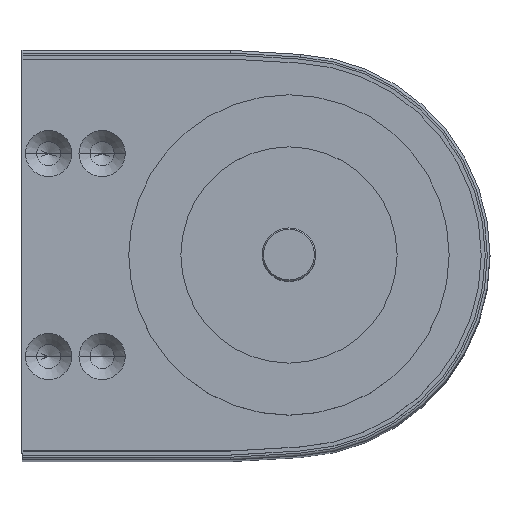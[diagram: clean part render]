
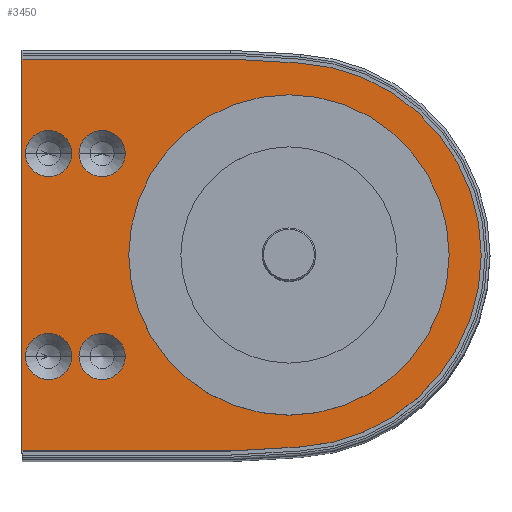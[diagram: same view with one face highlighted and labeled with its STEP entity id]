
A CAD part, top view. The second image highlights one B-rep face of the part: STEP entity #3450.
In plain terms, the highlighted planar face has unit normal (0, 0, 1).
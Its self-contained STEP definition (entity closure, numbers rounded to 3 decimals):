
#28 = EDGE_CURVE ( 'NONE', #1777, #62, #1908, .T. ) ;
#62 = VERTEX_POINT ( 'NONE', #893 ) ;
#119 = CIRCLE ( 'NONE', #2849, 60. ) ;
#135 = AXIS2_PLACEMENT_3D ( 'NONE', #1813, #1173, #3102 ) ;
#143 = CIRCLE ( 'NONE', #3673, 8.65 ) ;
#167 = CARTESIAN_POINT ( 'NONE',  ( -70., -38., 209. ) ) ;
#211 = VERTEX_POINT ( 'NONE', #757 ) ;
#223 = CARTESIAN_POINT ( 'NONE',  ( -90., 38., 209. ) ) ;
#234 = EDGE_CURVE ( 'NONE', #3190, #1376, #2387, .T. ) ;
#238 = VECTOR ( 'NONE', #1838, 1000. ) ;
#244 = CARTESIAN_POINT ( 'NONE',  ( -90., -38., 209. ) ) ;
#269 = CIRCLE ( 'NONE', #2852, 8.65 ) ;
#330 = DIRECTION ( 'NONE',  ( 1., 0., 0. ) ) ;
#363 = EDGE_CURVE ( 'NONE', #3931, #3793, #119, .T. ) ;
#375 = CARTESIAN_POINT ( 'NONE',  ( -21.968, -73.4, 209. ) ) ;
#376 = CARTESIAN_POINT ( 'NONE',  ( 0., 0., 209. ) ) ;
#405 = EDGE_LOOP ( 'NONE', ( #1068, #2258 ) ) ;
#421 = DIRECTION ( 'NONE',  ( 0., 0., 1. ) ) ;
#426 = VERTEX_POINT ( 'NONE', #1114 ) ;
#439 = ORIENTED_EDGE ( 'NONE', *, *, #1679, .F. ) ;
#486 = ORIENTED_EDGE ( 'NONE', *, *, #879, .T. ) ;
#557 = DIRECTION ( 'NONE',  ( 0., 0., 1. ) ) ;
#587 = DIRECTION ( 'NONE',  ( 0., 0., 1. ) ) ;
#687 = PLANE ( 'NONE',  #3656 ) ;
#694 = CARTESIAN_POINT ( 'NONE',  ( -78.65, -38., 209. ) ) ;
#714 = DIRECTION ( 'NONE',  ( 1., 0., 0. ) ) ;
#732 = EDGE_CURVE ( 'NONE', #211, #1518, #269, .T. ) ;
#757 = CARTESIAN_POINT ( 'NONE',  ( -81.35, 38., 209. ) ) ;
#773 = CARTESIAN_POINT ( 'NONE',  ( -78.65, 38., 209. ) ) ;
#783 = FACE_BOUND ( 'NONE', #1517, .T. ) ;
#789 = DIRECTION ( 'NONE',  ( 0., 0., 1. ) ) ;
#862 = DIRECTION ( 'NONE',  ( 1., 0., 0. ) ) ;
#879 = EDGE_CURVE ( 'NONE', #1376, #2011, #3802, .T. ) ;
#884 = LINE ( 'NONE', #3027, #3811 ) ;
#893 = CARTESIAN_POINT ( 'NONE',  ( -21.968, 73.4, 209. ) ) ;
#894 = DIRECTION ( 'NONE',  ( 1., 0., 0. ) ) ;
#1063 = DIRECTION ( 'NONE',  ( 1., 0., 0. ) ) ;
#1068 = ORIENTED_EDGE ( 'NONE', *, *, #1844, .F. ) ;
#1071 = CARTESIAN_POINT ( 'NONE',  ( -98.65, -38., 209. ) ) ;
#1114 = CARTESIAN_POINT ( 'NONE',  ( -81.35, -38., 209. ) ) ;
#1153 = ORIENTED_EDGE ( 'NONE', *, *, #3825, .F. ) ;
#1168 = CARTESIAN_POINT ( 'NONE',  ( -21.968, 73.4, 209. ) ) ;
#1173 = DIRECTION ( 'NONE',  ( 0., 0., 1. ) ) ;
#1207 = DIRECTION ( 'NONE',  ( 1., 0., 0. ) ) ;
#1242 = FACE_BOUND ( 'NONE', #2231, .T. ) ;
#1244 = DIRECTION ( 'NONE',  ( 1., 0., 0. ) ) ;
#1256 = VERTEX_POINT ( 'NONE', #2924 ) ;
#1361 = EDGE_CURVE ( 'NONE', #3882, #1512, #3934, .T. ) ;
#1375 = CARTESIAN_POINT ( 'NONE',  ( 0., 0., 209. ) ) ;
#1376 = VERTEX_POINT ( 'NONE', #2593 ) ;
#1398 = ORIENTED_EDGE ( 'NONE', *, *, #1782, .F. ) ;
#1512 = VERTEX_POINT ( 'NONE', #773 ) ;
#1517 = EDGE_LOOP ( 'NONE', ( #1863, #1153 ) ) ;
#1518 = VERTEX_POINT ( 'NONE', #3682 ) ;
#1570 = ORIENTED_EDGE ( 'NONE', *, *, #28, .F. ) ;
#1624 = ORIENTED_EDGE ( 'NONE', *, *, #234, .T. ) ;
#1625 = VERTEX_POINT ( 'NONE', #1071 ) ;
#1679 = EDGE_CURVE ( 'NONE', #3793, #3931, #3766, .T. ) ;
#1710 = CIRCLE ( 'NONE', #2512, 8.65 ) ;
#1737 = DIRECTION ( 'NONE',  ( 0., 0., 1. ) ) ;
#1777 = VERTEX_POINT ( 'NONE', #4114 ) ;
#1782 = EDGE_CURVE ( 'NONE', #1518, #211, #1710, .T. ) ;
#1813 = CARTESIAN_POINT ( 'NONE',  ( 0., 0., 209. ) ) ;
#1821 = EDGE_CURVE ( 'NONE', #1512, #3882, #2661, .T. ) ;
#1838 = DIRECTION ( 'NONE',  ( 0.998, -0.058, 0. ) ) ;
#1844 = EDGE_CURVE ( 'NONE', #426, #1625, #143, .T. ) ;
#1853 = ORIENTED_EDGE ( 'NONE', *, *, #2889, .T. ) ;
#1863 = ORIENTED_EDGE ( 'NONE', *, *, #2551, .F. ) ;
#1865 = CARTESIAN_POINT ( 'NONE',  ( -100., -73.4, 209. ) ) ;
#1887 = CARTESIAN_POINT ( 'NONE',  ( -70., 38., 209. ) ) ;
#1895 = DIRECTION ( 'NONE',  ( 1., 0., 0. ) ) ;
#1897 = AXIS2_PLACEMENT_3D ( 'NONE', #1887, #557, #862 ) ;
#1908 = LINE ( 'NONE', #3191, #2677 ) ;
#1929 = CARTESIAN_POINT ( 'NONE',  ( -70., 38., 209. ) ) ;
#1976 = FACE_BOUND ( 'NONE', #2558, .T. ) ;
#1989 = VERTEX_POINT ( 'NONE', #3464 ) ;
#2011 = VERTEX_POINT ( 'NONE', #2519 ) ;
#2022 = AXIS2_PLACEMENT_3D ( 'NONE', #244, #4162, #894 ) ;
#2056 = ORIENTED_EDGE ( 'NONE', *, *, #3474, .T. ) ;
#2146 = CARTESIAN_POINT ( 'NONE',  ( 0., 0., 209. ) ) ;
#2161 = DIRECTION ( 'NONE',  ( 1., 0., 0. ) ) ;
#2187 = CIRCLE ( 'NONE', #2022, 8.65 ) ;
#2231 = EDGE_LOOP ( 'NONE', ( #3208, #439 ) ) ;
#2258 = ORIENTED_EDGE ( 'NONE', *, *, #3734, .F. ) ;
#2289 = DIRECTION ( 'NONE',  ( 1., 0., 0. ) ) ;
#2313 = AXIS2_PLACEMENT_3D ( 'NONE', #1929, #3253, #2289 ) ;
#2387 = LINE ( 'NONE', #2996, #2692 ) ;
#2445 = FACE_OUTER_BOUND ( 'NONE', #3545, .T. ) ;
#2469 = DIRECTION ( 'NONE',  ( 1., 0., 0. ) ) ;
#2512 = AXIS2_PLACEMENT_3D ( 'NONE', #223, #3837, #2816 ) ;
#2519 = CARTESIAN_POINT ( 'NONE',  ( 4.182, 71.878, 209. ) ) ;
#2547 = CARTESIAN_POINT ( 'NONE',  ( -70., -38., 209. ) ) ;
#2551 = EDGE_CURVE ( 'NONE', #1989, #3287, #3029, .T. ) ;
#2558 = EDGE_LOOP ( 'NONE', ( #3594, #3467 ) ) ;
#2560 = EDGE_LOOP ( 'NONE', ( #2951, #1398 ) ) ;
#2593 = CARTESIAN_POINT ( 'NONE',  ( 4.182, -71.878, 209. ) ) ;
#2661 = CIRCLE ( 'NONE', #1897, 8.65 ) ;
#2674 = AXIS2_PLACEMENT_3D ( 'NONE', #2547, #2808, #1207 ) ;
#2677 = VECTOR ( 'NONE', #4159, 1000. ) ;
#2692 = VECTOR ( 'NONE', #2693, 1000. ) ;
#2693 = DIRECTION ( 'NONE',  ( 0.998, 0.058, 0. ) ) ;
#2784 = CARTESIAN_POINT ( 'NONE',  ( -90., 38., 209. ) ) ;
#2808 = DIRECTION ( 'NONE',  ( 0., 0., 1. ) ) ;
#2816 = DIRECTION ( 'NONE',  ( 1., 0., 0. ) ) ;
#2820 = CARTESIAN_POINT ( 'NONE',  ( 60., 0., 209. ) ) ;
#2849 = AXIS2_PLACEMENT_3D ( 'NONE', #2146, #789, #2469 ) ;
#2852 = AXIS2_PLACEMENT_3D ( 'NONE', #2784, #3110, #330 ) ;
#2856 = LINE ( 'NONE', #1168, #238 ) ;
#2889 = EDGE_CURVE ( 'NONE', #1256, #3190, #3812, .T. ) ;
#2924 = CARTESIAN_POINT ( 'NONE',  ( -100., -73.4, 209. ) ) ;
#2951 = ORIENTED_EDGE ( 'NONE', *, *, #732, .F. ) ;
#2996 = CARTESIAN_POINT ( 'NONE',  ( -21.968, -73.4, 209. ) ) ;
#3027 = CARTESIAN_POINT ( 'NONE',  ( -100., 73.4, 209. ) ) ;
#3029 = CIRCLE ( 'NONE', #3598, 8.65 ) ;
#3073 = CARTESIAN_POINT ( 'NONE',  ( -61.35, 38., 209. ) ) ;
#3102 = DIRECTION ( 'NONE',  ( 1., 0., 0. ) ) ;
#3110 = DIRECTION ( 'NONE',  ( 0., 0., 1. ) ) ;
#3190 = VERTEX_POINT ( 'NONE', #375 ) ;
#3191 = CARTESIAN_POINT ( 'NONE',  ( -100., 73.4, 209. ) ) ;
#3208 = ORIENTED_EDGE ( 'NONE', *, *, #363, .F. ) ;
#3239 = ORIENTED_EDGE ( 'NONE', *, *, #4043, .F. ) ;
#3253 = DIRECTION ( 'NONE',  ( 0., 0., 1. ) ) ;
#3287 = VERTEX_POINT ( 'NONE', #694 ) ;
#3450 = ADVANCED_FACE ( 'NONE', ( #2445, #3509, #783, #1976, #4166, #1242 ), #687, .T. ) ;
#3464 = CARTESIAN_POINT ( 'NONE',  ( -61.35, -38., 209. ) ) ;
#3467 = ORIENTED_EDGE ( 'NONE', *, *, #1821, .F. ) ;
#3474 = EDGE_CURVE ( 'NONE', #1777, #1256, #884, .T. ) ;
#3509 = FACE_BOUND ( 'NONE', #405, .T. ) ;
#3540 = CARTESIAN_POINT ( 'NONE',  ( -90., -38., 209. ) ) ;
#3545 = EDGE_LOOP ( 'NONE', ( #1570, #2056, #1853, #1624, #486, #3239 ) ) ;
#3556 = VECTOR ( 'NONE', #1895, 1000. ) ;
#3594 = ORIENTED_EDGE ( 'NONE', *, *, #1361, .F. ) ;
#3598 = AXIS2_PLACEMENT_3D ( 'NONE', #167, #4094, #2161 ) ;
#3650 = DIRECTION ( 'NONE',  ( 0., -1., 0. ) ) ;
#3656 = AXIS2_PLACEMENT_3D ( 'NONE', #376, #1737, #714 ) ;
#3673 = AXIS2_PLACEMENT_3D ( 'NONE', #3540, #587, #1244 ) ;
#3682 = CARTESIAN_POINT ( 'NONE',  ( -98.65, 38., 209. ) ) ;
#3734 = EDGE_CURVE ( 'NONE', #1625, #426, #2187, .T. ) ;
#3766 = CIRCLE ( 'NONE', #135, 60. ) ;
#3793 = VERTEX_POINT ( 'NONE', #2820 ) ;
#3802 = CIRCLE ( 'NONE', #4138, 72. ) ;
#3811 = VECTOR ( 'NONE', #3650, 1000. ) ;
#3812 = LINE ( 'NONE', #1865, #3556 ) ;
#3825 = EDGE_CURVE ( 'NONE', #3287, #1989, #4108, .T. ) ;
#3837 = DIRECTION ( 'NONE',  ( 0., 0., 1. ) ) ;
#3882 = VERTEX_POINT ( 'NONE', #3073 ) ;
#3931 = VERTEX_POINT ( 'NONE', #4030 ) ;
#3934 = CIRCLE ( 'NONE', #2313, 8.65 ) ;
#4030 = CARTESIAN_POINT ( 'NONE',  ( -60., 0., 209. ) ) ;
#4043 = EDGE_CURVE ( 'NONE', #62, #2011, #2856, .T. ) ;
#4094 = DIRECTION ( 'NONE',  ( 0., 0., 1. ) ) ;
#4108 = CIRCLE ( 'NONE', #2674, 8.65 ) ;
#4114 = CARTESIAN_POINT ( 'NONE',  ( -100., 73.4, 209. ) ) ;
#4138 = AXIS2_PLACEMENT_3D ( 'NONE', #1375, #421, #1063 ) ;
#4159 = DIRECTION ( 'NONE',  ( 1., 0., 0. ) ) ;
#4162 = DIRECTION ( 'NONE',  ( 0., 0., 1. ) ) ;
#4166 = FACE_BOUND ( 'NONE', #2560, .T. ) ;
